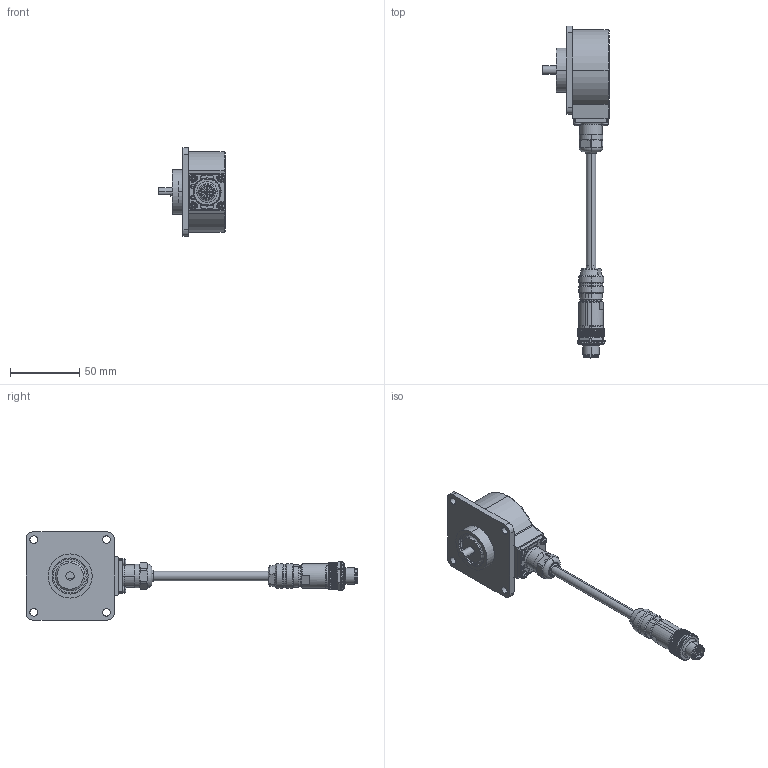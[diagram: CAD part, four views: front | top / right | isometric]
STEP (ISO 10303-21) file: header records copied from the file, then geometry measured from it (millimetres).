
FILE_DESCRIPTION (( 'STEP AP203' ), '1' );
FILE_NAME ('K58I.OXX.XXXXX.XS1Q506.6XR13.XXXX.step', '2025-12-08T16:17:13', ( '' ), ( '' ), 'SwSTEP 2.0', 'SolidWorks 2021', '' );
FILE_SCHEMA (( 'CONFIG_CONTROL_DESIGN' ));
Length unit declared in the file: millimetre
Products named in the file (1): K58I.OXX.XXXXX.XS1Q506.6XR13.XXXX
Bounding box: 48.19 x 239.24 x 63.5 mm (x, y, z)
Volume: 137469.7 mm3; surface area: 43366.9 mm2
Topology: 21 solids, 21 shells, 1460 faces, 3564 edges, 2181 vertices
Faces by surface type: plane 534, cylinder 524, cone 288, bspline 60, torus 38, sphere 16
Entity records: 45979 total; most frequent: CARTESIAN_POINT 12562, ORIENTED_EDGE 7104, DIRECTION 6886, EDGE_CURVE 3552, AXIS2_PLACEMENT_3D 2763, VERTEX_POINT 2179, EDGE_LOOP 1535, ADVANCED_FACE 1460
